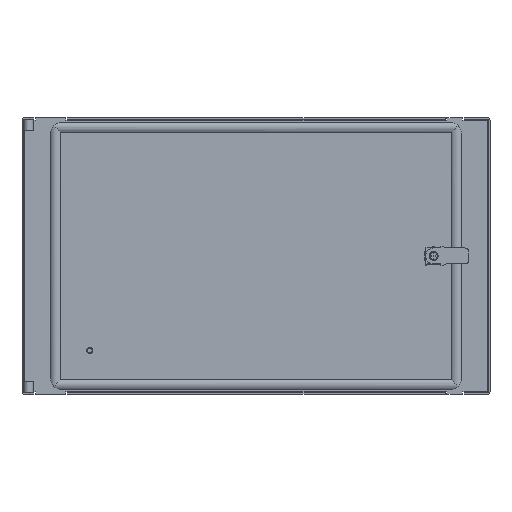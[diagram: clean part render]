
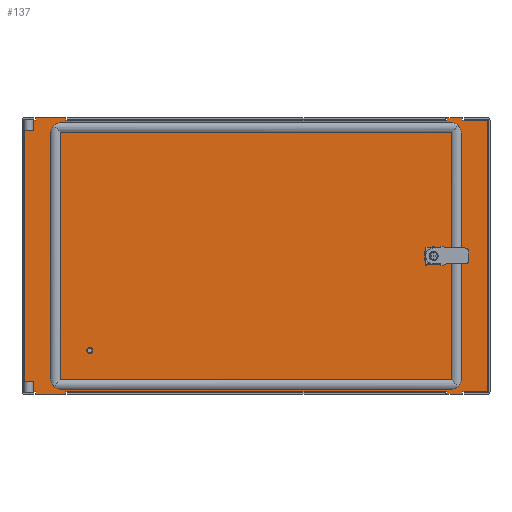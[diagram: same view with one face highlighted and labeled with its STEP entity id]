
A CAD part, top view. The second image highlights one B-rep face of the part: STEP entity #137.
In plain terms, the highlighted planar face has unit normal (0, 0, 1).
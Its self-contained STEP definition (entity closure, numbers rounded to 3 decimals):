
#137=ADVANCED_FACE('',(#702,#704,#706),#708,.T.);
#702=FACE_BOUND('',#703,.T.);
#703=EDGE_LOOP('',(#3435,#3436,#3437,#3438,#3439,#3440,#3441,#3442,#3443,#3444,#3445,
#3446,#3447,#3448,#3449,#3450,#3451,#3452,#3453,#3454,#3455,#3456,#3457,#3458,#3459,
#3460,#3461,#3462));
#704=FACE_BOUND('',#705,.T.);
#705=EDGE_LOOP('',(#3463));
#706=FACE_BOUND('',#707,.T.);
#707=EDGE_LOOP('',(#3464,#3465,#3466,#3467));
#708=PLANE('',#709);
#709=AXIS2_PLACEMENT_3D('',#710,#711,#712);
#710=CARTESIAN_POINT('',(0.,0.,2.));
#711=DIRECTION('',(0.,0.,1.));
#712=DIRECTION('',(1.,0.,0.));
#3435=ORIENTED_EDGE('',*,*,#5245,.F.);
#3436=ORIENTED_EDGE('',*,*,#5225,.F.);
#3437=ORIENTED_EDGE('',*,*,#5152,.F.);
#3438=ORIENTED_EDGE('',*,*,#5246,.F.);
#3439=ORIENTED_EDGE('',*,*,#5247,.F.);
#3440=ORIENTED_EDGE('',*,*,#5248,.F.);
#3441=ORIENTED_EDGE('',*,*,#5249,.F.);
#3442=ORIENTED_EDGE('',*,*,#5221,.F.);
#3443=ORIENTED_EDGE('',*,*,#5156,.F.);
#3444=ORIENTED_EDGE('',*,*,#5250,.F.);
#3445=ORIENTED_EDGE('',*,*,#5251,.F.);
#3446=ORIENTED_EDGE('',*,*,#5252,.F.);
#3447=ORIENTED_EDGE('',*,*,#5253,.F.);
#3448=ORIENTED_EDGE('',*,*,#5254,.F.);
#3449=ORIENTED_EDGE('',*,*,#5255,.F.);
#3450=ORIENTED_EDGE('',*,*,#5176,.F.);
#3451=ORIENTED_EDGE('',*,*,#5149,.F.);
#3452=ORIENTED_EDGE('',*,*,#5256,.T.);
#3453=ORIENTED_EDGE('',*,*,#5257,.T.);
#3454=ORIENTED_EDGE('',*,*,#5258,.T.);
#3455=ORIENTED_EDGE('',*,*,#5143,.F.);
#3456=ORIENTED_EDGE('',*,*,#5174,.F.);
#3457=ORIENTED_EDGE('',*,*,#5141,.F.);
#3458=ORIENTED_EDGE('',*,*,#5259,.T.);
#3459=ORIENTED_EDGE('',*,*,#5260,.T.);
#3460=ORIENTED_EDGE('',*,*,#5261,.T.);
#3461=ORIENTED_EDGE('',*,*,#5135,.F.);
#3462=ORIENTED_EDGE('',*,*,#5182,.F.);
#3463=ORIENTED_EDGE('',*,*,#5133,.F.);
#3464=ORIENTED_EDGE('',*,*,#5262,.F.);
#3465=ORIENTED_EDGE('',*,*,#5263,.F.);
#3466=ORIENTED_EDGE('',*,*,#5264,.F.);
#3467=ORIENTED_EDGE('',*,*,#5265,.F.);
#5133=EDGE_CURVE('',#6052,#6052,#6053,.T.);
#5135=EDGE_CURVE('',#6056,#6057,#6058,.T.);
#5141=EDGE_CURVE('',#6067,#6069,#6070,.T.);
#5143=EDGE_CURVE('',#6072,#6073,#6074,.T.);
#5149=EDGE_CURVE('',#6083,#6085,#6086,.T.);
#5152=EDGE_CURVE('',#6088,#6091,#6092,.T.);
#5156=EDGE_CURVE('',#6096,#6099,#6100,.T.);
#5174=EDGE_CURVE('',#6069,#6072,#6129,.T.);
#5176=EDGE_CURVE('',#6085,#6132,#6133,.T.);
#5182=EDGE_CURVE('',#6141,#6056,#6143,.T.);
#5221=EDGE_CURVE('',#6099,#6206,#6207,.T.);
#5225=EDGE_CURVE('',#6091,#6213,#6214,.T.);
#5245=EDGE_CURVE('',#6213,#6141,#6244,.T.);
#5246=EDGE_CURVE('',#6245,#6088,#6246,.T.);
#5247=EDGE_CURVE('',#6247,#6245,#6248,.T.);
#5248=EDGE_CURVE('',#6249,#6247,#6250,.T.);
#5249=EDGE_CURVE('',#6206,#6249,#6251,.T.);
#5250=EDGE_CURVE('',#6252,#6096,#6253,.T.);
#5251=EDGE_CURVE('',#6254,#6252,#6255,.T.);
#5252=EDGE_CURVE('',#6256,#6254,#6257,.T.);
#5253=EDGE_CURVE('',#6258,#6256,#6259,.T.);
#5254=EDGE_CURVE('',#6260,#6258,#6261,.T.);
#5255=EDGE_CURVE('',#6132,#6260,#6262,.T.);
#5256=EDGE_CURVE('',#6083,#6263,#6264,.T.);
#5257=EDGE_CURVE('',#6263,#6265,#6266,.T.);
#5258=EDGE_CURVE('',#6265,#6073,#6267,.T.);
#5259=EDGE_CURVE('',#6067,#6268,#6269,.T.);
#5260=EDGE_CURVE('',#6268,#6270,#6271,.T.);
#5261=EDGE_CURVE('',#6270,#6057,#6272,.T.);
#5262=EDGE_CURVE('',#6273,#6274,#6275,.T.);
#5263=EDGE_CURVE('',#6276,#6273,#6277,.T.);
#5264=EDGE_CURVE('',#6278,#6276,#6279,.T.);
#5265=EDGE_CURVE('',#6274,#6278,#6280,.T.);
#6052=VERTEX_POINT('',#7567);
#6053=CIRCLE('',#7568,0.5);
#6056=VERTEX_POINT('',#7577);
#6057=VERTEX_POINT('',#7578);
#6058=LINE('',#7579,#7580);
#6067=VERTEX_POINT('',#7598);
#6069=VERTEX_POINT('',#7602);
#6070=LINE('',#7603,#7604);
#6072=VERTEX_POINT('',#7609);
#6073=VERTEX_POINT('',#7610);
#6074=LINE('',#7611,#7612);
#6083=VERTEX_POINT('',#7630);
#6085=VERTEX_POINT('',#7634);
#6086=LINE('',#7635,#7636);
#6088=VERTEX_POINT('',#7641);
#6091=VERTEX_POINT('',#7646);
#6092=LINE('',#7647,#7648);
#6096=VERTEX_POINT('',#7657);
#6099=VERTEX_POINT('',#7662);
#6100=LINE('',#7663,#7664);
#6129=LINE('',#7762,#7763);
#6132=VERTEX_POINT('',#7770);
#6133=LINE('',#7771,#7772);
#6141=VERTEX_POINT('',#7803);
#6143=LINE('',#7820,#7821);
#6206=VERTEX_POINT('',#7979);
#6207=LINE('',#7980,#7981);
#6213=VERTEX_POINT('',#7996);
#6214=LINE('',#7997,#7998);
#6244=LINE('',#8080,#8081);
#6245=VERTEX_POINT('',#8083);
#6246=LINE('',#8084,#8085);
#6247=VERTEX_POINT('',#8087);
#6248=LINE('',#8088,#8089);
#6249=VERTEX_POINT('',#8091);
#6250=LINE('',#8092,#8093);
#6251=LINE('',#8095,#8096);
#6252=VERTEX_POINT('',#8098);
#6253=LINE('',#8099,#8100);
#6254=VERTEX_POINT('',#8102);
#6255=LINE('',#8103,#8104);
#6256=VERTEX_POINT('',#8106);
#6257=LINE('',#8107,#8108);
#6258=VERTEX_POINT('',#8110);
#6259=LINE('',#8111,#8112);
#6260=VERTEX_POINT('',#8114);
#6261=LINE('',#8115,#8116);
#6262=LINE('',#8118,#8119);
#6263=VERTEX_POINT('',#8121);
#6264=LINE('',#8122,#8123);
#6265=VERTEX_POINT('',#8125);
#6266=LINE('',#8126,#8127);
#6267=LINE('',#8129,#8130);
#6268=VERTEX_POINT('',#8132);
#6269=LINE('',#8133,#8134);
#6270=VERTEX_POINT('',#8136);
#6271=LINE('',#8137,#8138);
#6272=LINE('',#8140,#8141);
#6273=VERTEX_POINT('',#8143);
#6274=VERTEX_POINT('',#8144);
#6275=LINE('',#8145,#8146);
#6276=VERTEX_POINT('',#8148);
#6277=LINE('',#8149,#8150);
#6278=VERTEX_POINT('',#8152);
#6279=LINE('',#8153,#8154);
#6280=LINE('',#8156,#8157);
#7567=CARTESIAN_POINT('',(-207.7,-118.5,2.));
#7568=AXIS2_PLACEMENT_3D('',#7569,#7570,#7571);
#7569=CARTESIAN_POINT('',(-208.2,-118.5,2.));
#7570=DIRECTION('',(0.,0.,1.));
#7571=DIRECTION('',(-1.,0.,0.));
#7577=CARTESIAN_POINT('',(260.7,-170.1,2.));
#7578=CARTESIAN_POINT('',(258.7,-170.1,2.));
#7579=CARTESIAN_POINT('',(260.7,-170.1,2.));
#7580=VECTOR('',#7581,1.);
#7581=DIRECTION('',(-1.,0.,0.));
#7598=CARTESIAN_POINT('',(239.2,-170.1,2.));
#7602=CARTESIAN_POINT('',(237.2,-170.1,2.));
#7603=CARTESIAN_POINT('',(239.2,-170.1,2.));
#7604=VECTOR('',#7605,1.);
#7605=DIRECTION('',(-1.,0.,0.));
#7609=CARTESIAN_POINT('',(-236.2,-170.1,2.));
#7610=CARTESIAN_POINT('',(-238.2,-170.1,2.));
#7611=CARTESIAN_POINT('',(-236.2,-170.1,2.));
#7612=VECTOR('',#7613,1.);
#7613=DIRECTION('',(-1.,0.,0.));
#7630=CARTESIAN_POINT('',(-276.2,-170.1,2.));
#7634=CARTESIAN_POINT('',(-278.2,-170.1,2.));
#7635=CARTESIAN_POINT('',(-276.2,-170.1,2.));
#7636=VECTOR('',#7637,1.);
#7637=DIRECTION('',(-1.,0.,0.));
#7641=CARTESIAN_POINT('',(258.7,170.1,2.));
#7646=CARTESIAN_POINT('',(260.7,170.1,2.));
#7647=CARTESIAN_POINT('',(258.7,170.1,2.));
#7648=VECTOR('',#7649,1.);
#7649=DIRECTION('',(1.,0.,0.));
#7657=CARTESIAN_POINT('',(-238.2,170.1,2.));
#7662=CARTESIAN_POINT('',(-236.2,170.1,2.));
#7663=CARTESIAN_POINT('',(-238.2,170.1,2.));
#7664=VECTOR('',#7665,1.);
#7665=DIRECTION('',(1.,0.,0.));
#7762=CARTESIAN_POINT('',(237.2,-170.1,2.));
#7763=VECTOR('',#7764,1.);
#7764=DIRECTION('',(-1.,0.,0.));
#7770=CARTESIAN_POINT('',(-289.8,-170.1,2.));
#7771=CARTESIAN_POINT('',(-278.2,-170.1,2.));
#7772=VECTOR('',#7773,1.);
#7773=DIRECTION('',(-1.,0.,0.));
#7803=CARTESIAN_POINT('',(289.8,-170.1,2.));
#7820=CARTESIAN_POINT('',(289.8,-170.1,2.));
#7821=VECTOR('',#7822,1.);
#7822=DIRECTION('',(-1.,0.,0.));
#7979=CARTESIAN_POINT('',(237.2,170.1,2.));
#7980=CARTESIAN_POINT('',(-236.2,170.1,2.));
#7981=VECTOR('',#7982,1.);
#7982=DIRECTION('',(1.,0.,0.));
#7996=CARTESIAN_POINT('',(289.8,170.1,2.));
#7997=CARTESIAN_POINT('',(260.7,170.1,2.));
#7998=VECTOR('',#7999,1.);
#7999=DIRECTION('',(1.,0.,0.));
#8080=CARTESIAN_POINT('',(289.8,170.1,2.));
#8081=VECTOR('',#8082,1.);
#8082=DIRECTION('',(0.,-1.,0.));
#8083=CARTESIAN_POINT('',(258.7,173.5,2.));
#8084=CARTESIAN_POINT('',(258.7,173.5,2.));
#8085=VECTOR('',#8086,1.);
#8086=DIRECTION('',(0.,-1.,0.));
#8087=CARTESIAN_POINT('',(239.2,173.5,2.));
#8088=CARTESIAN_POINT('',(239.2,173.5,2.));
#8089=VECTOR('',#8090,1.);
#8090=DIRECTION('',(1.,0.,0.));
#8091=CARTESIAN_POINT('',(239.2,170.1,2.));
#8092=CARTESIAN_POINT('',(239.2,170.1,2.));
#8093=VECTOR('',#8094,1.);
#8094=DIRECTION('',(0.,1.,0.));
#8095=CARTESIAN_POINT('',(237.2,170.1,2.));
#8096=VECTOR('',#8097,1.);
#8097=DIRECTION('',(1.,0.,0.));
#8098=CARTESIAN_POINT('',(-238.2,173.5,2.));
#8099=CARTESIAN_POINT('',(-238.2,173.5,2.));
#8100=VECTOR('',#8101,1.);
#8101=DIRECTION('',(0.,-1.,0.));
#8102=CARTESIAN_POINT('',(-276.2,173.5,2.));
#8103=CARTESIAN_POINT('',(-276.2,173.5,2.));
#8104=VECTOR('',#8105,1.);
#8105=DIRECTION('',(1.,0.,0.));
#8106=CARTESIAN_POINT('',(-276.2,170.1,2.));
#8107=CARTESIAN_POINT('',(-276.2,170.1,2.));
#8108=VECTOR('',#8109,1.);
#8109=DIRECTION('',(0.,1.,0.));
#8110=CARTESIAN_POINT('',(-278.2,170.1,2.));
#8111=CARTESIAN_POINT('',(-278.2,170.1,2.));
#8112=VECTOR('',#8113,1.);
#8113=DIRECTION('',(1.,0.,0.));
#8114=CARTESIAN_POINT('',(-289.8,170.1,2.));
#8115=CARTESIAN_POINT('',(-289.8,170.1,2.));
#8116=VECTOR('',#8117,1.);
#8117=DIRECTION('',(1.,0.,0.));
#8118=CARTESIAN_POINT('',(-289.8,-170.1,2.));
#8119=VECTOR('',#8120,1.);
#8120=DIRECTION('',(0.,1.,0.));
#8121=CARTESIAN_POINT('',(-276.2,-173.5,2.));
#8122=CARTESIAN_POINT('',(-276.2,-170.1,2.));
#8123=VECTOR('',#8124,1.);
#8124=DIRECTION('',(0.,-1.,0.));
#8125=CARTESIAN_POINT('',(-238.2,-173.5,2.));
#8126=CARTESIAN_POINT('',(-276.2,-173.5,2.));
#8127=VECTOR('',#8128,1.);
#8128=DIRECTION('',(1.,0.,0.));
#8129=CARTESIAN_POINT('',(-238.2,-173.5,2.));
#8130=VECTOR('',#8131,1.);
#8131=DIRECTION('',(0.,1.,0.));
#8132=CARTESIAN_POINT('',(239.2,-173.5,2.));
#8133=CARTESIAN_POINT('',(239.2,-170.1,2.));
#8134=VECTOR('',#8135,1.);
#8135=DIRECTION('',(0.,-1.,0.));
#8136=CARTESIAN_POINT('',(258.7,-173.5,2.));
#8137=CARTESIAN_POINT('',(239.2,-173.5,2.));
#8138=VECTOR('',#8139,1.);
#8139=DIRECTION('',(1.,0.,0.));
#8140=CARTESIAN_POINT('',(258.7,-173.5,2.));
#8141=VECTOR('',#8142,1.);
#8142=DIRECTION('',(0.,1.,0.));
#8143=CARTESIAN_POINT('',(233.2,-10.6,2.));
#8144=CARTESIAN_POINT('',(233.2,10.6,2.));
#8145=CARTESIAN_POINT('',(233.2,-10.6,2.));
#8146=VECTOR('',#8147,1.);
#8147=DIRECTION('',(0.,1.,0.));
#8148=CARTESIAN_POINT('',(212.,-10.6,2.));
#8149=CARTESIAN_POINT('',(212.,-10.6,2.));
#8150=VECTOR('',#8151,1.);
#8151=DIRECTION('',(1.,0.,0.));
#8152=CARTESIAN_POINT('',(212.,10.6,2.));
#8153=CARTESIAN_POINT('',(212.,10.6,2.));
#8154=VECTOR('',#8155,1.);
#8155=DIRECTION('',(0.,-1.,0.));
#8156=CARTESIAN_POINT('',(233.2,10.6,2.));
#8157=VECTOR('',#8158,1.);
#8158=DIRECTION('',(-1.,0.,0.));
